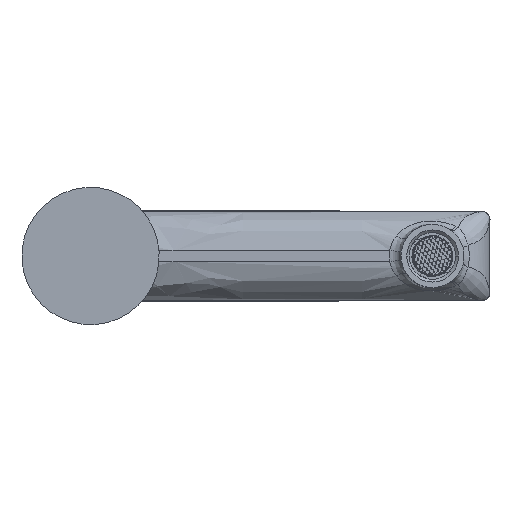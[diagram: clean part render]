
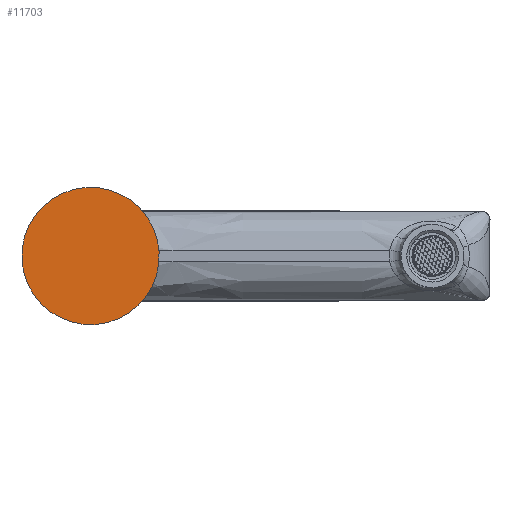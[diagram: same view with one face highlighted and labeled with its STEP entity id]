
A CAD part, front view. The second image highlights one B-rep face of the part: STEP entity #11703.
In plain terms, the highlighted planar face has unit normal (0, -1, 0).
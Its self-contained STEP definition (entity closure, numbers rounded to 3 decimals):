
#868 = DIRECTION ( 'NONE',  ( -0.109, 0., -0.994 ) ) ;
#4475 = VERTEX_POINT ( 'NONE', #38776 ) ;
#6986 = AXIS2_PLACEMENT_3D ( 'NONE', #52168, #47751, #24624 ) ;
#8955 = FACE_OUTER_BOUND ( 'NONE', #57558, .T. ) ;
#9583 = ORIENTED_EDGE ( 'NONE', *, *, #61800, .T. ) ;
#11703 = ADVANCED_FACE ( 'NONE', ( #8955 ), #24257, .T. ) ;
#18884 = DIRECTION ( 'NONE',  ( 0., -1., 0. ) ) ;
#19286 = VERTEX_POINT ( 'NONE', #64649 ) ;
#24257 = PLANE ( 'NONE',  #6986 ) ;
#24624 = DIRECTION ( 'NONE',  ( 0., 0., -1. ) ) ;
#28789 = AXIS2_PLACEMENT_3D ( 'NONE', #29429, #18884, #63171 ) ;
#29429 = CARTESIAN_POINT ( 'NONE',  ( -108.831, -81.738, 0.006 ) ) ;
#32217 = CIRCLE ( 'NONE', #28789, 25. ) ;
#38007 = EDGE_CURVE ( 'NONE', #4475, #19286, #32217, .T. ) ;
#38776 = CARTESIAN_POINT ( 'NONE',  ( -111.553, -81.738, -24.846 ) ) ;
#44778 = DIRECTION ( 'NONE',  ( 0., -1., 0. ) ) ;
#47500 = AXIS2_PLACEMENT_3D ( 'NONE', #51317, #44778, #868 ) ;
#47751 = DIRECTION ( 'NONE',  ( 0., -1., 0. ) ) ;
#50256 = ORIENTED_EDGE ( 'NONE', *, *, #38007, .T. ) ;
#51317 = CARTESIAN_POINT ( 'NONE',  ( -108.831, -81.738, 0.006 ) ) ;
#52168 = CARTESIAN_POINT ( 'NONE',  ( -108.831, -81.738, 0.006 ) ) ;
#57558 = EDGE_LOOP ( 'NONE', ( #50256, #9583 ) ) ;
#61800 = EDGE_CURVE ( 'NONE', #19286, #4475, #64972, .T. ) ;
#63171 = DIRECTION ( 'NONE',  ( -0.109, 0., -0.994 ) ) ;
#64649 = CARTESIAN_POINT ( 'NONE',  ( -106.109, -81.738, 24.857 ) ) ;
#64972 = CIRCLE ( 'NONE', #47500, 25. ) ;
